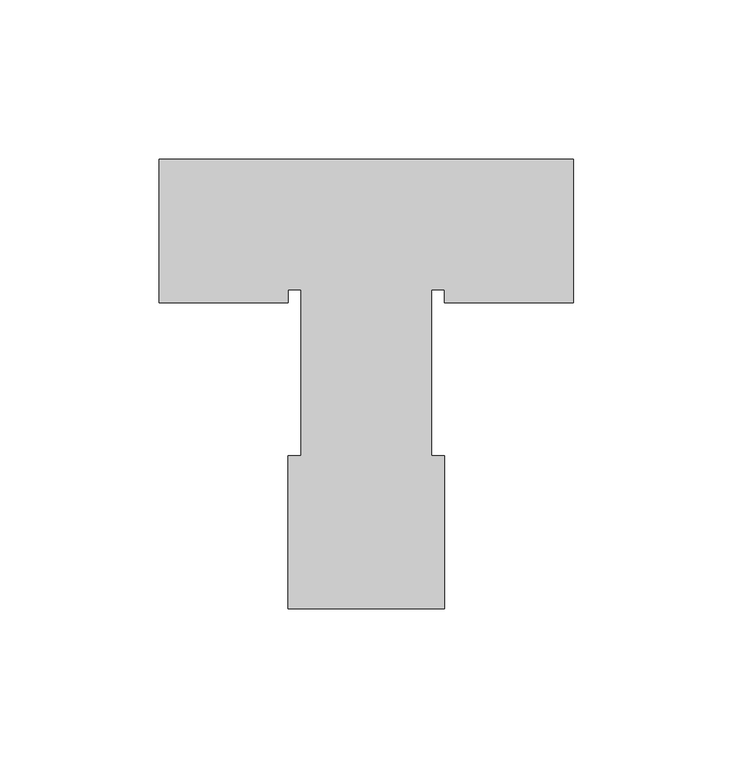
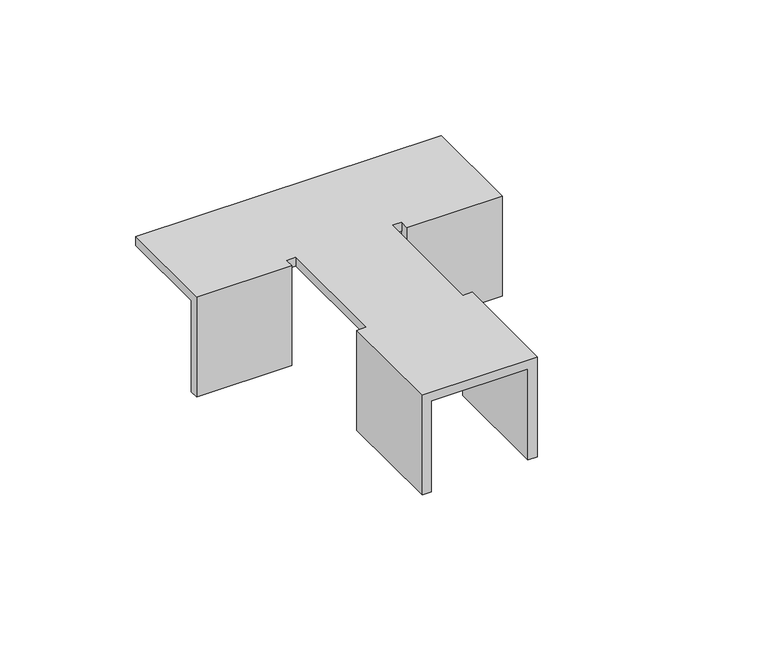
"""IFC4 building model written with IfcOpenShell, lengths in millimetres: proxy geometry, 4182TE_Tightened joint-Basorfix : Basorfix 4182TE GC70."""

from ifc_helpers import new_model, si_unit, origin, place, context, project, spatial, faceted_brep, source, transform, mapped, element, save


def generic_models_48baef25(model_context):
    return source(origin(), model_context, "Body", "Brep", [
        faceted_brep([(65.0, -24.4842733, 4.0), (65.0, 20.4842733, 4.0), (-65.0, 20.4842733, 4.0), (-65.0, -24.4842733, 4.0), (-24.5, -24.4842733, 4.0), (-24.5, -20.4842733, 4.0), (-20.5, -20.4842733, 4.0), (-20.5, -72.4842733, 4.0), (-24.5, -72.4842733, 4.0), (-24.5, -120.4842733, 4.0), (24.5, -120.4842733, 4.0), (24.5, -72.4842733, 4.0), (20.5, -72.4842733, 4.0), (20.5, -20.4842733, 4.0), (24.5, -20.4842733, 4.0), (24.5, -24.4842733, 4.0), (24.5, -20.4842733, 0.0), (20.5, -20.4842733, 0.0), (20.5, -72.4842733, 0.0), (20.5, -120.4842733, 0.0), (-20.5, -120.4842733, 0.0), (-20.5, -72.4842733, 0.0), (-20.5, -20.4842733, 0.0), (-24.5, -20.4842733, 0.0), (-65.0, -20.4842733, 0.0), (-65.0, 20.4842733, 0.0), (65.0, 20.4842733, 0.0), (65.0, -20.4842733, 0.0), (-65.0, -20.4842733, -41.0), (-65.0, -24.4842733, -41.0), (65.0, -24.4842733, -41.0), (65.0, -20.4842733, -41.0), (-24.5, -24.4842733, -41.0), (-24.5, -20.4842733, -41.0), (-24.5, -120.4842733, -41.0), (-20.5, -120.4842733, -41.0), (20.5, -120.4842733, -41.0), (24.5, -120.4842733, -41.0), (-20.5, -72.4842733, -41.0), (-24.5, -72.4842733, -41.0), (24.5, -72.4842733, -41.0), (20.5, -72.4842733, -41.0), (24.5, -20.4842733, -41.0), (24.5, -24.4842733, -41.0)], [[[0, 1, 2, 3, 4, 5, 6, 7, 8, 9, 10, 11, 12, 13, 14, 15]], [[16, 17, 18, 19, 20, 21, 22, 23, 24, 25, 26, 27]], [[3, 2, 25, 24, 28, 29]], [[1, 0, 30, 31, 27, 26]], [[2, 1, 26, 25]], [[4, 3, 29, 32]], [[5, 4, 32, 33, 23]], [[6, 5, 23, 22]], [[10, 9, 34, 35, 20, 19, 36, 37]], [[7, 6, 22, 21]], [[8, 7, 21, 38, 39]], [[34, 9, 8, 39]], [[11, 10, 37, 40]], [[12, 11, 40, 41, 18]], [[13, 12, 18, 17]], [[14, 13, 17, 16]], [[15, 14, 16, 42, 43]], [[30, 0, 15, 43]], [[33, 32, 29, 28]], [[40, 37, 36, 41]], [[30, 43, 42, 31]], [[38, 35, 34, 39]], [[33, 28, 24, 23]], [[41, 36, 19, 18]], [[31, 42, 16, 27]], [[35, 38, 21, 20]]]),
    ])


if __name__ == "__main__":
    model = new_model("IFC4")
    model_context = context("Model", 3, world=origin())
    ifc_project = project(units=[si_unit("LENGTHUNIT", "METRE", prefix="MILLI")], contexts=[model_context])
    site = spatial("IfcSite", under=ifc_project)
    building = spatial("IfcBuilding", under=site)
    placement = place(None, origin())
    generic_models_shape = generic_models_48baef25(model_context)
    element("IfcBuildingElementProxy", 1, Name="4182TE_Tightened joint-Basorfix : Basorfix 4182TE GC70", ObjectType="4182TE_Tightened joint-Basorfix : Basorfix 4182TE GC70", at=placement, inside=building, context=model_context, shape_type="MappedRepresentation", body=[
        mapped(generic_models_shape, transform((0.0, 0.0, 0.0), x_axis=(1.0, 0.0, 0.0), y_axis=(0.0, 1.0, 0.0), z_axis=(0.0, 0.0, 1.0))),
    ])
    save(model, "model.ifc")
